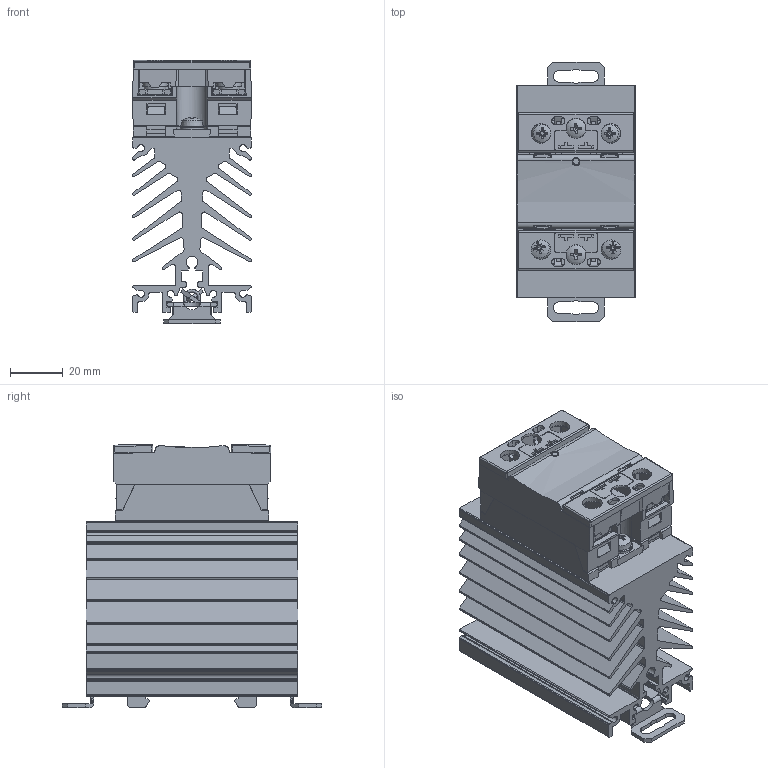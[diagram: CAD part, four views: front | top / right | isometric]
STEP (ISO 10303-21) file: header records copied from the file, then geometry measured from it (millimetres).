
FILE_DESCRIPTION(/* description */ (''),/* implementation_level */ '2;1');
FILE_NAME(/* name */ 'C:\Users\ysicot\Desktop\2D3D 691 A.stp',/* time_stamp */ '2023-10-19T09:58:20+02:00',/* author */ ('ysicot'),/* organization */ (''),/* preprocessor_version */ 'ST-DEVELOPER v17',/* originating_system */ 'Autodesk Inventor 2018',/* authorisation */ '');
FILE_SCHEMA (('CONFIG_CONTROL_DESIGN'));
Length unit declared in the file: millimetre
Products named in the file (9): SO887940-WF151; SO8887940; WF151200; 2022315_D; ressort; 2022015_E CLIP BAS; 1L114800; DIN 7985 (Z) - M4x10-Z; 1
Assembly tree (10 placements, depth 3):
  SO887940-WF151
    SO8887940
    WF151200
      2022315_D
      2022015_E CLIP BAS  x2
      ressort
    1L114800  x2
      DIN 7985 (Z) - M4x10-Z
      1
Bounding box: 44.9 x 98 x 99.34 mm (x, y, z)
Volume: 165301.8 mm3; surface area: 94309 mm2
Topology: 9 solids, 10 shells, 2459 faces, 7064 edges, 4554 vertices
Faces by surface type: plane 1386, cylinder 571, cone 447, torus 22, bspline 19, sphere 14
Full cylindrical faces by diameter (mm): 2.35 x1, 2.9 x1, 3 x1, 3.242 x2, 3.3 x2, 3.621 x2, 3.704 x2, 3.8 x2, 4 x6, 4.567 x2, 4.6 x2, 4.7 x1, 5 x2, 7.4 x4, 9 x2
Entity records: 72963 total; most frequent: CARTESIAN_POINT 16719, ORIENTED_EDGE 11926, DIRECTION 11346, EDGE_CURVE 5963, AXIS2_PLACEMENT_3D 3848, VERTEX_POINT 3842, LINE 3650, VECTOR 3650
